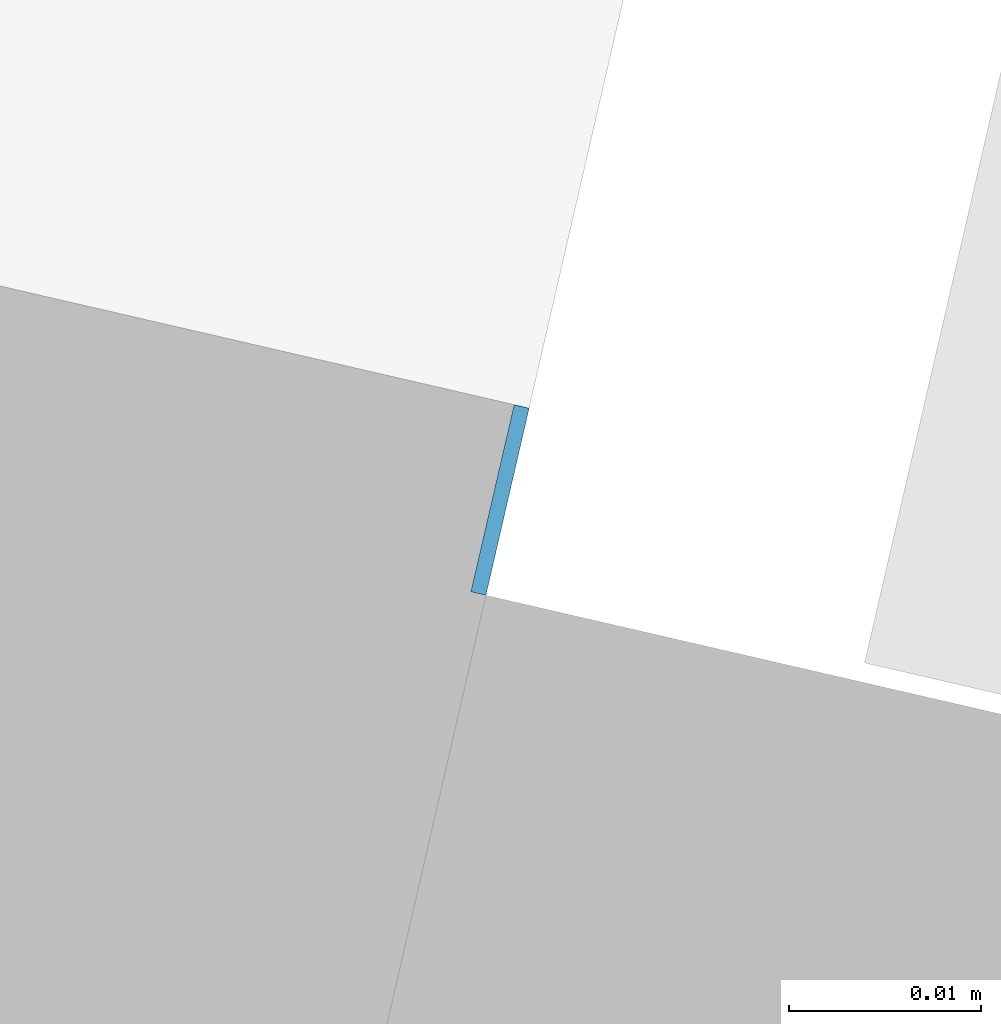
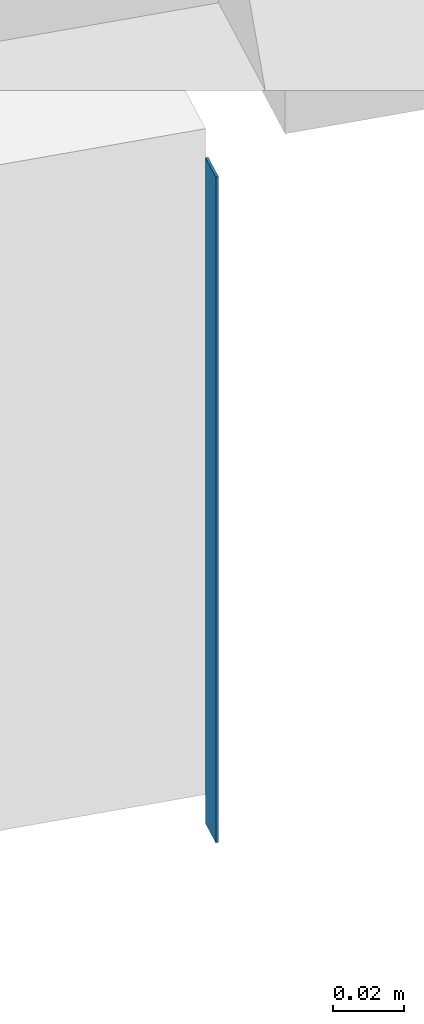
# One storey, part 7 of 119: 1 slab.
"""IFC2X3 building model written with IfcOpenShell, lengths in metres."""

from ifc_helpers import new_model, entity, si_unit, converted_unit, derived_unit, money_unit, direction, frame, origin_with_axes, place, context, subcontext, project, spatial, faceted_brep, material, type_object, element, save


model = new_model("IFC2X3")

# Units and contexts
model_context = context("Model", 3, precision=1e-05, world=origin_with_axes(), true_north=direction((0.0, 1.0)))
body_context = subcontext(model_context, "Body", "Model", "MODEL_VIEW")
ifc_project = project(units=[si_unit("LENGTHUNIT", "METRE"), si_unit("AREAUNIT", "SQUARE_METRE"), si_unit("VOLUMEUNIT", "CUBIC_METRE"), converted_unit("PLANEANGLEUNIT", "DEGREE", entity("IfcPlaneAngleMeasure", 0.0174532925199), si_unit("PLANEANGLEUNIT", "RADIAN"), dimensions=[0, 0, 0, 0, 0, 0, 0]), si_unit("SOLIDANGLEUNIT", "STERADIAN"), money_unit("EUR"), converted_unit("TIMEUNIT", "Year", entity("IfcTimeMeasure", 31556926.0), si_unit("TIMEUNIT", "SECOND"), dimensions=[0, 0, 1, 0, 0, 0, 0]), si_unit("MASSUNIT", "GRAM", prefix="KILO"), si_unit("THERMODYNAMICTEMPERATUREUNIT", "DEGREE_CELSIUS"), si_unit("LUMINOUSINTENSITYUNIT", "LUMEN"), si_unit("ENERGYUNIT", "JOULE", prefix="MEGA"), derived_unit("THERMALCONDUCTANCEUNIT", [(si_unit("POWERUNIT", "WATT"), 1), (si_unit("LENGTHUNIT", "METRE"), -1), (si_unit("THERMODYNAMICTEMPERATUREUNIT", "KELVIN"), -1)]), derived_unit("SPECIFICHEATCAPACITYUNIT", [(si_unit("ENERGYUNIT", "JOULE"), 1), (si_unit("MASSUNIT", "GRAM", prefix="KILO"), -1), (si_unit("THERMODYNAMICTEMPERATUREUNIT", "KELVIN"), -1)]), derived_unit("MASSDENSITYUNIT", [(si_unit("MASSUNIT", "GRAM", prefix="KILO"), 1), (si_unit("VOLUMEUNIT", "CUBIC_METRE"), -1)])], contexts=[model_context])

# Site, building, storey
site_placement = place(None, origin_with_axes())
site = spatial("IfcSite", under=ifc_project, at=site_placement, Name="Site", CompositionType="ELEMENT")
building_placement = place(site_placement, origin_with_axes())
building = spatial("IfcBuilding", under=site, at=building_placement, Name="Bâtiment", CompositionType="ELEMENT")
storey_placement = place(building_placement, origin_with_axes())
storey = spatial("IfcBuildingStorey", under=building, at=storey_placement, Name="Rez-de-chaussée", CompositionType="ELEMENT", Elevation=0.0)

# Slab
ifc_material = material(Name="Béton")
slab_type = type_object("IfcSlabType", Name="Béton 230", PredefinedType="FLOOR")
slab_placement = place(storey_placement, frame((-9.62349617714, -5.97672902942, -0.06), z_axis=(0.0, 0.0, 1.0), x_axis=(1.0, 0.0, 0.0)))
element("IfcSlab", 1, at=slab_placement, inside=storey, type_object=slab_type, material=ifc_material, Name="Pré-dalle préfabriquée pour dalle béton", PredefinedType="FLOOR", context=body_context, shape_type="Brep", body=[
    faceted_brep([(0.0, 0.0, 0.0), (0.0, 0.0, -0.23), (-0.00225359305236, -0.00974233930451, -0.23), (-0.00225359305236, -0.00974233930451, 0.0), (0.000782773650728, -0.000180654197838, 0.0), (0.000782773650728, -0.000180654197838, -0.23), (-0.00146598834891, -0.00992452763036, -0.23), (-0.00146598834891, -0.00992452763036, 0.0)], [[[0, 1, 2, 3]], [[4, 5, 1, 0]], [[2, 1, 5, 6]], [[3, 2, 6, 7]], [[4, 0, 3, 7]], [[7, 6, 5, 4]]]),
])

save(model, "model.ifc")
